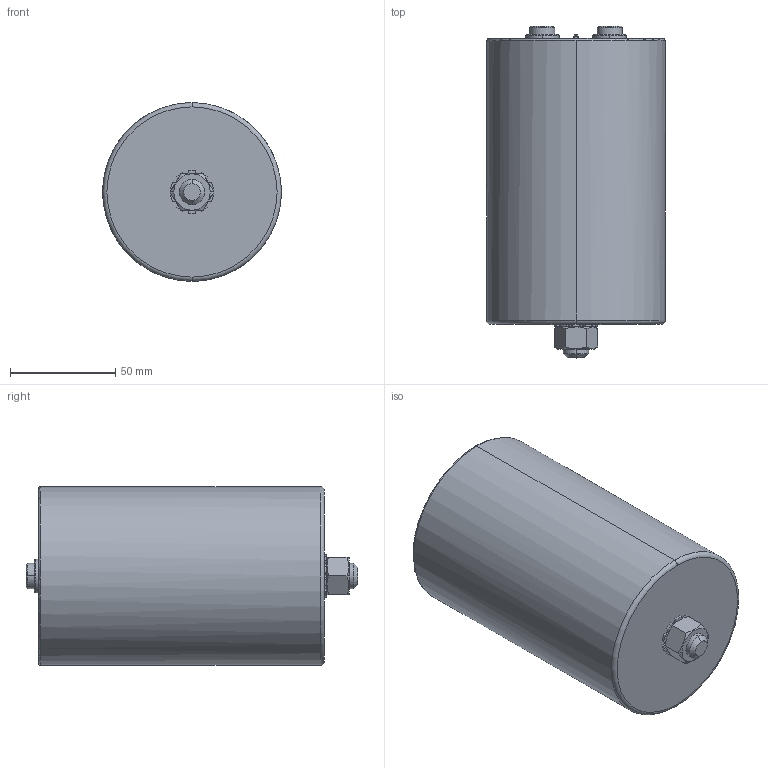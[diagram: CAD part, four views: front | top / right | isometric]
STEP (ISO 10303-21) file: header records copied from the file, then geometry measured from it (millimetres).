
FILE_DESCRIPTION (( 'STEP AP214' ), '1' );
FILE_NAME ('B25694M Series D85 Hc136 Ht142.STEP', '2025-07-24T05:22:20', ( '' ), ( '' ), 'SwSTEP 2.0', 'SolidWorks 2019', '' );
FILE_SCHEMA (( 'AUTOMOTIVE_DESIGN' ));
Length unit declared in the file: millimetre
Products named in the file (1): B25694M Series D85 Hc136 Ht142
Bounding box: 85 x 158 x 85 mm (x, y, z)
Volume: 776437.2 mm3; surface area: 49123.1 mm2
Topology: 1 solids, 2 shells, 137 faces, 331 edges, 202 vertices
Faces by surface type: plane 59, cylinder 48, cone 22, torus 8
Entity records: 4131 total; most frequent: CARTESIAN_POINT 799, DIRECTION 761, ORIENTED_EDGE 654, EDGE_CURVE 327, AXIS2_PLACEMENT_3D 308, VERTEX_POINT 202, CIRCLE 170, EDGE_LOOP 147
